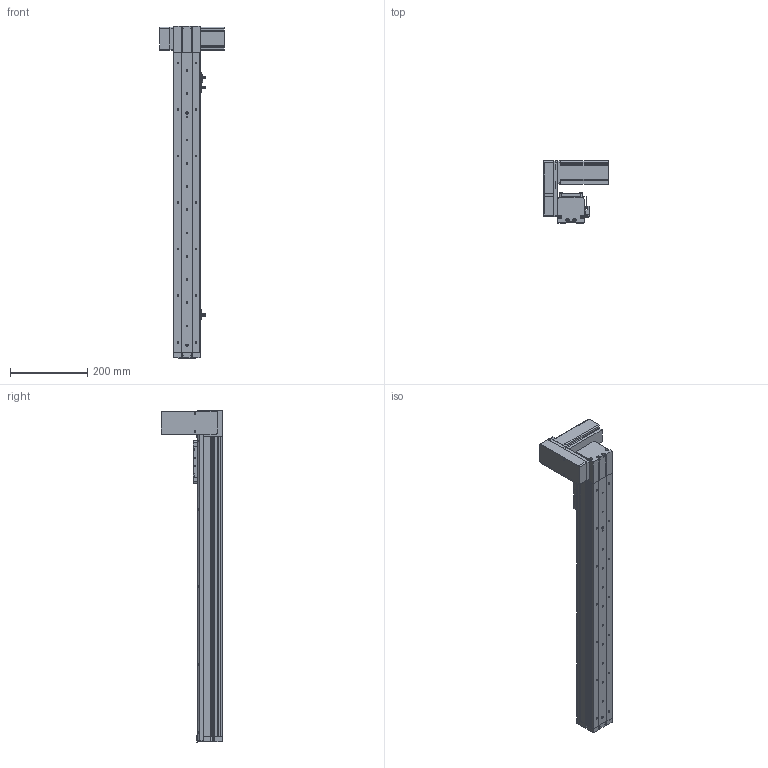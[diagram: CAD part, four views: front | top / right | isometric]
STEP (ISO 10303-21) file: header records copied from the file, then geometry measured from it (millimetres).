
FILE_DESCRIPTION (( 'STEP AP214' ), '1' );
FILE_NAME ('KSD68BS-S600-MRU-CR.STEP', '2019-08-28T06:16:44', ( '微软用户' ), ( '微软中国' ), 'SwSTEP 2.0', 'SolidWorks 2014', '' );
FILE_SCHEMA (( 'AUTOMOTIVE_DESIGN' ));
Length unit declared in the file: millimetre
Products named in the file (14): KSD68BS 600行程盖板全封闭; 68宽单导轨全封闭同步带端板; KSD68BS 600行程侧板全封闭; 68单导轨全封闭同步带电机座右; 68单导轨全封闭同步带安装板; 悵誘欶奻狟殏; 68宽马达安装板连板上折同步带; 感应片68宽全封闭; U倰嫖萇EEㄜSX672; 台达ECMA－C20604AS伺服电机（400W); KSD68BS 600行程底板全封闭; KSD68BS-S600-MRU-CR; 68遵裔啣揤啣1; 68宽单导轨全封闭丝杆传动安装板1防护罩
Assembly tree (17 placements, depth 2):
  KSD68BS-S600-MRU-CR
    KSD68BS 600行程底板全封闭
    台达ECMA－C20604AS伺服电机（400W)
    U倰嫖萇EEㄜSX672  x3
    感应片68宽全封闭
    68宽马达安装板连板上折同步带
    悵誘欶奻狟殏
    68单导轨全封闭同步带安装板
    68单导轨全封闭同步带电机座右
    68宽单导轨全封闭同步带端板
    KSD68BS 600行程侧板全封闭  x2
    68宽单导轨全封闭丝杆传动安装板1防护罩
    68遵裔啣揤啣1  x2
    KSD68BS 600行程盖板全封闭
Bounding box: 167.2 x 159.5 x 858.1 mm (x, y, z)
Volume: 1998337.3 mm3; surface area: 717859.3 mm2
Topology: 18 solids, 18 shells, 1440 faces, 4069 edges, 2609 vertices
Faces by surface type: cylinder 665, plane 627, cone 148
Entity records: 44934 total; most frequent: CARTESIAN_POINT 7593, DIRECTION 6775, ORIENTED_EDGE 6482, EDGE_CURVE 3241, AXIS2_PLACEMENT_3D 2425, VERTEX_POINT 2127, LINE 1925, VECTOR 1925
